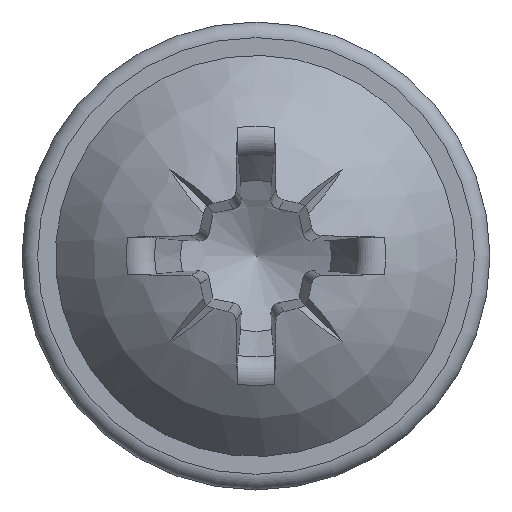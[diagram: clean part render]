
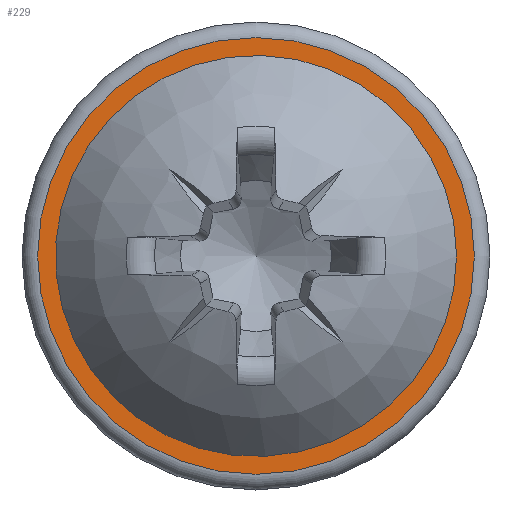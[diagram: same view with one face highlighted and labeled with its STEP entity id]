
A CAD part, top view. The second image highlights one B-rep face of the part: STEP entity #229.
In plain terms, the highlighted planar face has unit normal (0, 0, 1).
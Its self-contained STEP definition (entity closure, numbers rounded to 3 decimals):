
#155=PLANE('',#1297);
#210=FACE_BOUND('',#379,.T.);
#211=FACE_BOUND('',#380,.T.);
#229=ADVANCED_FACE('',(#210,#211),#155,.F.);
#379=EDGE_LOOP('',(#572));
#380=EDGE_LOOP('',(#573));
#451=CIRCLE('',#1253,5.143);
#487=CIRCLE('',#1296,5.6);
#572=ORIENTED_EDGE('',*,*,#1051,.T.);
#573=ORIENTED_EDGE('',*,*,#993,.F.);
#872=VERTEX_POINT('',#1877);
#927=VERTEX_POINT('',#2558);
#993=EDGE_CURVE('',#872,#872,#451,.T.);
#1051=EDGE_CURVE('',#927,#927,#487,.T.);
#1253=AXIS2_PLACEMENT_3D('',#1876,#1362,#1363);
#1296=AXIS2_PLACEMENT_3D('',#2557,#1448,#1449);
#1297=AXIS2_PLACEMENT_3D('',#2559,#1450,#1451);
#1362=DIRECTION('',(0.,0.,1.));
#1363=DIRECTION('',(1.,0.,0.));
#1448=DIRECTION('',(0.,0.,1.));
#1449=DIRECTION('',(-1.,0.,0.));
#1450=DIRECTION('',(0.,0.,-1.));
#1451=DIRECTION('',(-1.,0.,0.));
#1876=CARTESIAN_POINT('',(0.,0.,1.3));
#1877=CARTESIAN_POINT('',(5.143,0.,1.3));
#2557=CARTESIAN_POINT('',(0.,0.,1.3));
#2558=CARTESIAN_POINT('',(-5.6,0.,1.3));
#2559=CARTESIAN_POINT('',(0.,6.,1.3));
